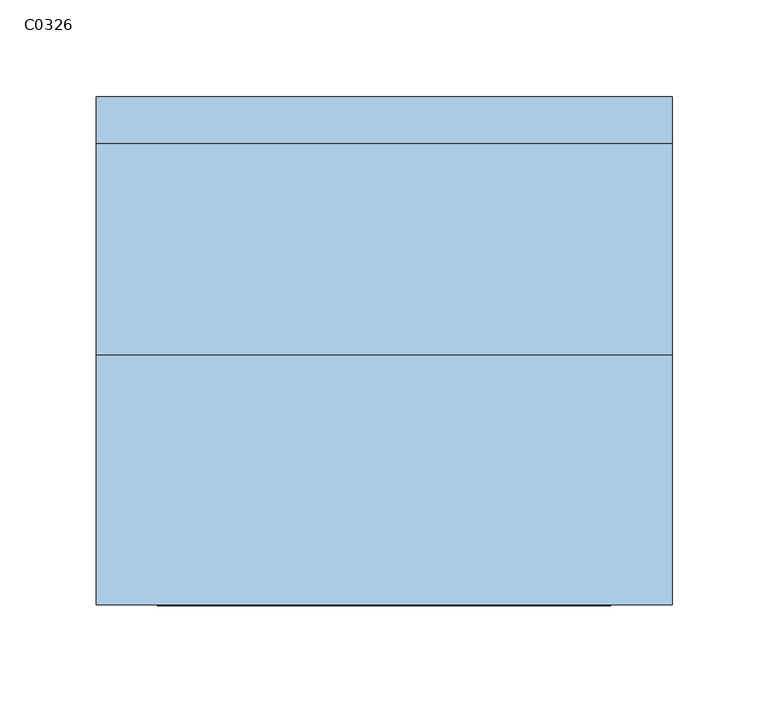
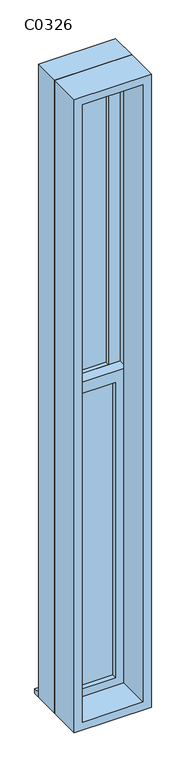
"""IFC4 building model written with IfcOpenShell, lengths in millimetres: window geometry, 上下拉窗1 : C0326."""

from ifc_helpers import new_model, si_unit, frame, origin, place, context, project, spatial, polyline, outline, extrude, source, transform, mapped, element, save


def c0326_e0add0ce(model_context):
    return source(origin(), model_context, "Body", "SweptSolid", [
        extrude(outline(polyline([(-85.0, 82.2615397), (85.0, 82.2615397), (85.0, 72.2615397), (-85.0, 72.2615397), (-85.0, 82.2615397)])), frame((0.0, 0.0, 2222.5), z_axis=(0.0, 0.0, 1.0), x_axis=(1.0, 0.0, 0.0)), (0.0, 0.0, 1.0), 1212.5),
        extrude(outline(polyline([(-85.0, 37.2615397), (85.0, 37.2615397), (85.0, 27.2615397), (-85.0, 27.2615397), (-85.0, 37.2615397)])), frame((0.0, 0.0, 965.0), z_axis=(0.0, 0.0, 1.0), x_axis=(1.0, 0.0, 0.0)), (0.0, 0.0, 1.0), 1212.5),
        extrude(outline(polyline([(2222.5, -130.0), (920.0, -130.0), (920.0, 130.0), (2222.5, 130.0), (2222.5, -130.0)]), holes=[polyline([(2177.5, -85.0), (2177.5, 85.0), (965.0, 85.0), (965.0, -85.0), (2177.5, -85.0)])]), frame((0.0, 9.7615397, 0.0), z_axis=(0.0, 1.0, 0.0), x_axis=(0.0, 0.0, 1.0)), (0.0, 0.0, 1.0), 45.0),
        extrude(outline(polyline([(3480.0, -130.0), (2177.5, -130.0), (2177.5, 130.0), (3480.0, 130.0), (3480.0, -130.0)]), holes=[polyline([(3435.0, -85.0), (3435.0, 85.0), (2222.5, 85.0), (2222.5, -85.0), (3435.0, -85.0)])]), frame((0.0, 54.7615397, 0.0), z_axis=(0.0, 1.0, 0.0), x_axis=(0.0, 0.0, 1.0)), (0.0, 0.0, 1.0), 45.0),
        extrude(outline(polyline([(3500.0, -150.0), (900.0, -150.0), (900.0, 150.0), (3500.0, 150.0), (3500.0, -150.0)]), holes=[polyline([(3468.0, -118.0), (3468.0, 118.0), (932.0, 118.0), (932.0, -118.0), (3468.0, -118.0)])]), frame((0.0, -120.2384603, 0.0), z_axis=(0.0, 1.0, 0.0), x_axis=(0.0, 0.0, 1.0)), (0.0, 0.0, 1.0), 130.0),
        extrude(outline(polyline([(3500.0, 150.0), (3500.0, -150.0), (900.0, -150.0), (900.0, 150.0), (3500.0, 150.0)]), holes=[polyline([(3480.0, 130.0), (920.0, 130.0), (920.0, -130.0), (3480.0, -130.0), (3480.0, 130.0)])]), frame((0.0, 9.7615397, 0.0), z_axis=(0.0, 1.0, 0.0), x_axis=(0.0, 0.0, 1.0)), (0.0, 0.0, 1.0), 110.0),
        extrude(outline(polyline([(-150.0, 144.7615397), (150.0, 144.7615397), (150.0, 119.7615397), (-150.0, 119.7615397), (-150.0, 144.7615397)])), frame((0.0, 0.0, 900.0), z_axis=(0.0, 0.0, 1.0), x_axis=(1.0, 0.0, 0.0)), (0.0, 0.0, 1.0), 20.0),
    ])


if __name__ == "__main__":
    model = new_model("IFC4")
    model_context = context("Model", 3, world=origin())
    ifc_project = project(units=[si_unit("LENGTHUNIT", "METRE", prefix="MILLI")], contexts=[model_context])
    site = spatial("IfcSite", under=ifc_project)
    building = spatial("IfcBuilding", under=site)
    placement = place(None, origin())
    c0326_shape = c0326_e0add0ce(model_context)
    element("IfcWindow", 1, ObjectType="上下拉窗1 : C0326", at=placement, inside=building, context=model_context, shape_type="MappedRepresentation", body=[
        mapped(c0326_shape, transform((0.0, 0.0, 0.0), x_axis=(1.0, 0.0, 0.0), y_axis=(0.0, 1.0, 0.0), z_axis=(0.0, 0.0, 1.0))),
    ])
    save(model, "model.ifc")
